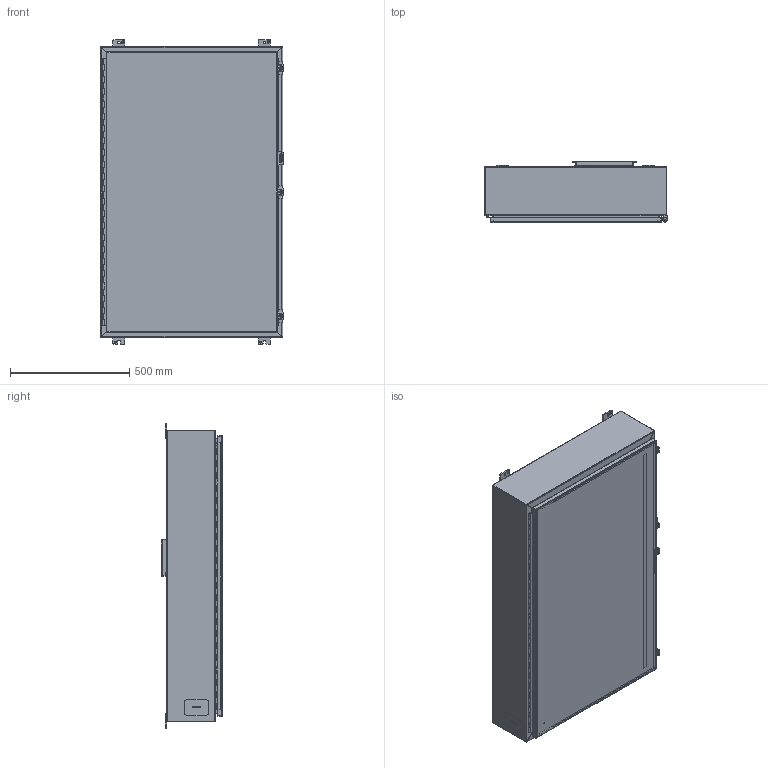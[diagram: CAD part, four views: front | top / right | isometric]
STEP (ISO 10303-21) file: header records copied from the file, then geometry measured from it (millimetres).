
FILE_DESCRIPTION(/* description */ ('Unknown'),/* implementation_level */ '2;1');
FILE_NAME(/* name */ '1418R8LP',/* time_stamp */ '2026-02-20T16:36:42-05:00',/* author */ ('Unknown'),/* organization */ ('Unknown'),/* preprocessor_version */ 'ST-DEVELOPER v18.104',/* originating_system */ 'Solid Edge',/* authorisation */ 'Unknown');
FILE_SCHEMA (('AUTOMOTIVE_DESIGN {1 0 10303 214 3 1 1}'));
Length unit declared in the file: millimetre
Products named in the file (32): 1418R8LP; AKT90223; SPR20265; SCC19011; WAF25035; COM42667; STD26094; STD21878; COM42780; COM40153-1; COM71782-5; COM40153-2; PNT11078; HNG10620-44C; COM70219_oa_0; COM53845-3; COM48498; FET07710; BUL10020; QLB30109; PKT99; KIT90256; LAB30005; NTS165305; NTS16535; HNG10620-44B; KIT90519; WAF25059; NTS166105; QLB20254; HNG10620-44P
Assembly tree (45 placements, depth 3):
  1418R8LP
    AKT90223  x3
      SPR20265
      SCC19011
      WAF25035
      COM42667
    STD26094  x6
    STD21878
    COM42780  x3
    COM40153-1
    COM71782-5
      COM40153-2
      COM71782-5
      STD21878
      PNT11078
      HNG10620-44C
      COM70219_oa_0
      COM53845-3
    COM48498
    FET07710  x4
    BUL10020
    QLB30109
    PKT99
    KIT90256
      LAB30005
      NTS165305
      NTS16535
    HNG10620-44B
    KIT90519
      WAF25059
      NTS166105
    QLB20254
    HNG10620-44P
    PNT11078
Bounding box: 765.17 x 257.18 x 1276.35 mm (x, y, z)
Volume: 5858460.3 mm3; surface area: 6398529.1 mm2
Topology: 43 solids, 44 shells, 1598 faces, 4157 edges, 2704 vertices
Faces by surface type: plane 1050, cylinder 413, bspline 77, torus 28, cone 28, sphere 2
Full cylindrical faces by diameter (mm): 3.175 x1, 4.763 x1, 4.976 x1, 5.41 x3, 6.198 x3, 6.35 x3, 6.731 x3, 7.137 x2, 7.805 x1, 7.938 x4, 8.382 x6, 9.525 x6, 9.906 x3, 11.113 x4, 11.303 x1, 12.7 x3, 16.51 x6, 25.4 x1, 88.9 x1
Entity records: 39227 total; most frequent: CARTESIAN_POINT 10947, ORIENTED_EDGE 5806, DIRECTION 5324, EDGE_CURVE 2903, LINE 1912, VECTOR 1912, VERTEX_POINT 1897, AXIS2_PLACEMENT_3D 1706
